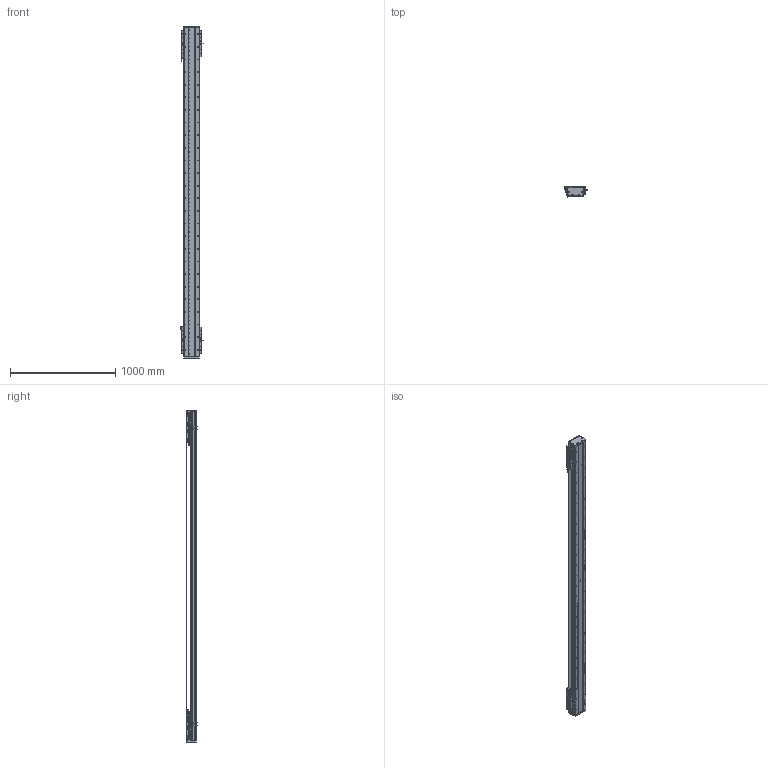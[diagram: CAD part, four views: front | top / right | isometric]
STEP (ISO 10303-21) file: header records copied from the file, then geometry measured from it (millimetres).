
FILE_DESCRIPTION (( 'STEP AP203' ), '1' );
FILE_NAME ('DA-C145-2-C3-T2540-C010-0.2 眻盄萇儂.STEP', '2025-08-13T10:28:16', ( '' ), ( '' ), 'SwSTEP 2.0', 'SolidWorks 2019', '' );
FILE_SCHEMA (( 'CONFIG_CONTROL_DESIGN' ));
Length unit declared in the file: millimetre
Products named in the file (38): 复件 DA145-GYP-00 光电感应片^DA-C145-2-C3-T-C010-0.2; 复件 DA145-C3-DK-00 挡块^CU145-W 滚珠滑台; DKW168-HXJ-ZJ-00 笢潔滅袉砎蝶; 葩璃 PM-Y65^DA-C145-2-C3-T-C010-0.2; 葩璃 CKMA01-W060-TRL^DA-C145-2-C3-T-C010-0.2; 复件 DA95-DB-00  挡板^CU145-W 滚珠滑台; 葩璃 DA95-HXJ-00 遣喳砎蝶^DA-C145-2-C3-T-C010-0.2; DA-C145-2-C3-T2540-C010-0.2 眻盄萇儂; 葩璃 PM-T45^DA-C145-2-C3-T-C010-0.2; 葩璃 XD-U-02L 棠掑喜^DA-C145-2-C3-T-C010-0.2; 复件 DA145-DG 钢带端盖^复件 CU145 钢带组件_DA-C145-2-C3-T-C010-0.2; 复件 内六角平端紧定螺钉 GB.T77-2000 M5×10^CU145-W 滚珠滑台; 葩璃 DA145-C3-DP-A-00 菜えA^CU145-W 幗紩賑怢; IU-CU145-L-00 菁釱(L3120); 葩璃 DA145-C3-DP-B-00 菜えB^CU145-W 幗紩賑怢; CU145-W-00 珨极趙賑雄怢啣-1; CU145-W 幗紩賑怢-1; 葩璃 DA95-GT-T-00^IU-CU145-L 菁釱絳寢; 复件 DA146 钢带拉块^复件 CU145 钢带组件_DA-C145-2-C3-T-C010-0.2; 复件 DA145-C3-YB-A-00 压板A^CU145-W 滚珠滑台; 复件 DA145-C3-YB-B-00 压板B^CU145-W 滚珠滑台; 葩璃 CKM03-W060-C1C2-TP-0.2^DA-C145-2-C3-T-C010-0.2; CU145-W 幗紩賑怢; 复件 DA146 钢带垫块^复件 CU145 钢带组件_DA-C145-2-C3-T-C010-0.2; 66245-CU145-HT-W-00 賑雄怢啣(3D芞祧)(00); 葩璃 鞠褒情蹟譫 M3^DA-C145-2-C3-T-C010-0.2; 葩璃 CU145 詩湍郪璃^DA-C145-2-C3-T-C010-0.2; 复件 半圆头内六角螺钉 M3×6^CU145-W 滚珠滑台; 复件 DA95-MFP-01 密封片^CU145-W 滚珠滑台; DKW-KGZ-ZJ-00 中间光电开关支架; 复件 纯铜油杯 6x6mm^CU145-W 滚珠滑台; 复件 DA145 钢带^复件 CU145 钢带组件_DA-C145-2-C3-T-C010-0.2; DKW-GYP-ZJ-00 笢潔嫖萇覜茼え; 复件 DA95-HK-GT-00 滑块钢轨^CU145-W-00 一体化滑动台板; TAY01-M8; IU-CU145-L 菁釱絳寢; CU145-W-00 珨极趙賑雄怢啣; 葩璃 DMA-010-0.2 黍杅芛^DA-C145-2-C3-T-C010-0.2
Assembly tree (180 placements, depth 4):
  DA-C145-2-C3-T2540-C010-0.2 眻盄萇儂
    IU-CU145-L 菁釱絳寢
      IU-CU145-L-00 菁釱(L3120)
      葩璃 DA95-GT-T-00^IU-CU145-L 菁釱絳寢  x4
    葩璃 CU145 詩湍郪璃^DA-C145-2-C3-T-C010-0.2
      复件 DA145-DG 钢带端盖^复件 CU145 钢带组件_DA-C145-2-C3-T-C010-0.2  x2
      复件 DA146 钢带拉块^复件 CU145 钢带组件_DA-C145-2-C3-T-C010-0.2  x2
      复件 DA146 钢带垫块^复件 CU145 钢带组件_DA-C145-2-C3-T-C010-0.2  x2
      复件 DA145 钢带^复件 CU145 钢带组件_DA-C145-2-C3-T-C010-0.2
    CU145-W 幗紩賑怢
      CU145-W-00 珨极趙賑雄怢啣
        66245-CU145-HT-W-00 賑雄怢啣(3D芞祧)(00)
        复件 DA95-HK-GT-00 滑块钢轨^CU145-W-00 一体化滑动台板  x8
      复件 DA95-MFP-01 密封片^CU145-W 滚珠滑台  x8
      复件 DA95-DB-00  挡板^CU145-W 滚珠滑台  x8
      复件 内六角平端紧定螺钉 GB.T77-2000 M5×10^CU145-W 滚珠滑台  x4
      复件 纯铜油杯 6x6mm^CU145-W 滚珠滑台  x4
      复件 半圆头内六角螺钉 M3×6^CU145-W 滚珠滑台  x16
      复件 DA145-C3-DK-00 挡块^CU145-W 滚珠滑台  x4
      葩璃 DA145-C3-DP-B-00 菜えB^CU145-W 幗紩賑怢  x2
      复件 DA145-C3-YB-B-00 压板B^CU145-W 滚珠滑台  x2
      葩璃 DA145-C3-DP-A-00 菜えA^CU145-W 幗紩賑怢  x3
      复件 DA145-C3-YB-A-00 压板A^CU145-W 滚珠滑台  x3
      TAY01-M8  x4
    CU145-W 幗紩賑怢-1
      CU145-W-00 珨极趙賑雄怢啣-1
        66245-CU145-HT-W-00 賑雄怢啣(3D芞祧)(00)
        复件 DA95-HK-GT-00 滑块钢轨^CU145-W-00 一体化滑动台板  x8
      复件 DA95-MFP-01 密封片^CU145-W 滚珠滑台  x8
      复件 DA95-DB-00  挡板^CU145-W 滚珠滑台  x8
      复件 内六角平端紧定螺钉 GB.T77-2000 M5×10^CU145-W 滚珠滑台  x4
      复件 纯铜油杯 6x6mm^CU145-W 滚珠滑台  x4
      复件 半圆头内六角螺钉 M3×6^CU145-W 滚珠滑台  x16
      复件 DA145-C3-DK-00 挡块^CU145-W 滚珠滑台  x4
      葩璃 DA145-C3-DP-B-00 菜えB^CU145-W 幗紩賑怢  x2
      复件 DA145-C3-YB-B-00 压板B^CU145-W 滚珠滑台  x2
      葩璃 DA145-C3-DP-A-00 菜えA^CU145-W 幗紩賑怢  x3
      复件 DA145-C3-YB-A-00 压板A^CU145-W 滚珠滑台  x3
      TAY01-M8  x4
    葩璃 CKMA01-W060-TRL^DA-C145-2-C3-T-C010-0.2
    葩璃 PM-T45^DA-C145-2-C3-T-C010-0.2  x4
    葩璃 XD-U-02L 棠掑喜^DA-C145-2-C3-T-C010-0.2
    葩璃 DA95-HXJ-00 遣喳砎蝶^DA-C145-2-C3-T-C010-0.2  x4
    葩璃 CKM03-W060-C1C2-TP-0.2^DA-C145-2-C3-T-C010-0.2  x2
    葩璃 DMA-010-0.2 黍杅芛^DA-C145-2-C3-T-C010-0.2  x2
    复件 DA145-GYP-00 光电感应片^DA-C145-2-C3-T-C010-0.2  x2
    DKW-GYP-ZJ-00 笢潔嫖萇覜茼え
    DKW-KGZ-ZJ-00 中间光电开关支架
    葩璃 PM-Y65^DA-C145-2-C3-T-C010-0.2
    葩璃 鞠褒情蹟譫 M3^DA-C145-2-C3-T-C010-0.2  x8
    DKW168-HXJ-ZJ-00 笢潔滅袉砎蝶
Bounding box: 213.7 x 108.45 x 3156 mm (x, y, z)
Volume: 16336478.7 mm3; surface area: 5264194 mm2
Topology: 175 solids, 239 shells, 7777 faces, 21363 edges, 13261 vertices
Faces by surface type: cylinder 3478, plane 2959, cone 1184, torus 140, sphere 8, bspline 8
Entity records: 153174 total; most frequent: CARTESIAN_POINT 45638, ORIENTED_EDGE 21412, DIRECTION 20139, EDGE_CURVE 10706, AXIS2_PLACEMENT_3D 7433, VERTEX_POINT 6960, LINE 5273, VECTOR 5273
